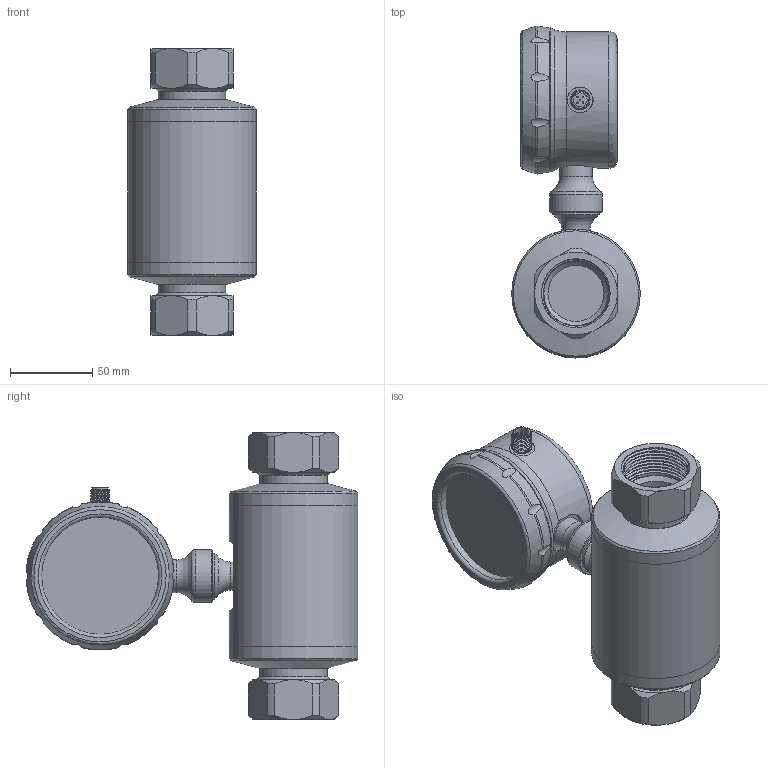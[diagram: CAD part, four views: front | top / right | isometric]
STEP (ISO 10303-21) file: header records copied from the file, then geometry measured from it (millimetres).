
FILE_DESCRIPTION( (''), '2;1');
FILE_NAME( 'QMKD_DN25_H50.5_female-thread.step', '2024-08-30T08:29:39+08:00', (''), (''), '', '', '');
FILE_SCHEMA (('AUTOMOTIVE_DESIGN { 1 0 10303 214 3 1 1 1 }'));
Length unit declared in the file: millimetre
Products named in the file (1): QMKD DN25_H50.5_female-thread
Bounding box: 78 x 201.37 x 174 mm (x, y, z)
Volume: 944350.5 mm3; surface area: 138575.8 mm2
Topology: 11 solids, 11 shells, 270 faces, 665 edges, 429 vertices
Faces by surface type: cylinder 90, plane 63, cone 47, bspline 32, sphere 20, torus 18
Full cylindrical faces by diameter (mm): 11.6 x1, 15 x2, 15.5 x1, 17 x1, 18 x1, 20 x1, 26 x1, 28 x1, 32 x1, 34 x2, 38 x2, 41 x2, 70 x2, 71 x1, 78 x3, 80 x2, 83 x1
Entity records: 18000 total; most frequent: CARTESIAN_POINT 12210, ORIENTED_EDGE 1152, DIRECTION 1091, EDGE_CURVE 576, AXIS2_PLACEMENT_3D 493, VERTEX_POINT 407, EDGE_LOOP 353, ADVANCED_FACE 269
